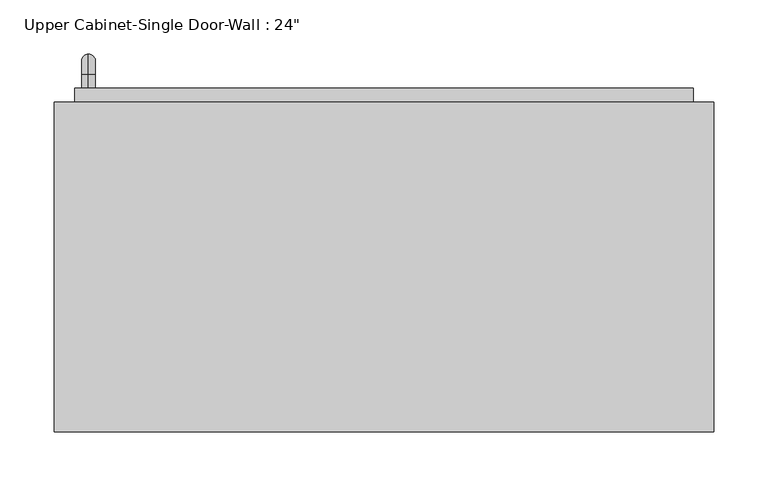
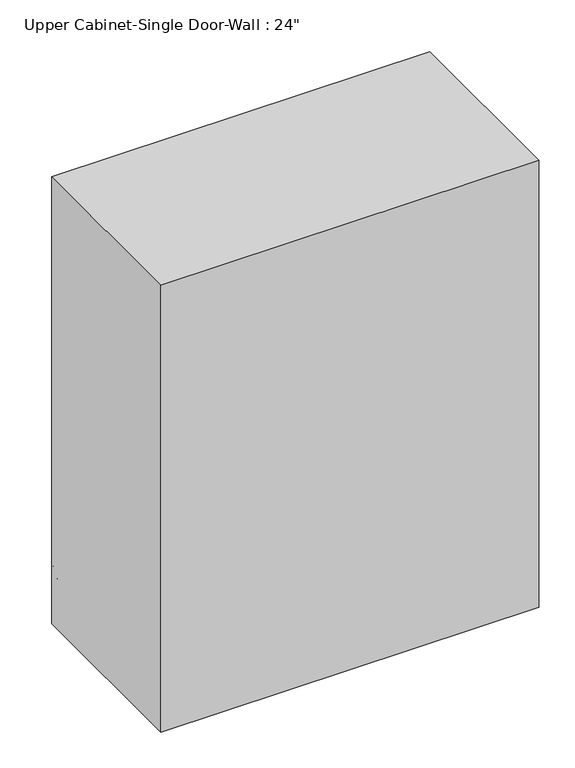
"""IFC4 building model written with IfcOpenShell, lengths in millimetres: furniture geometry."""

from ifc_helpers import new_model, si_unit, point, frame, origin, place, context, project, spatial, polyline, circle_curve, ellipse_curve, trimmed, outline, extrude, faceted_brep, source, transform, mapped, element, save
from ifc_brep_helpers import plane_surface, cylinder_surface, revolved_surface, advanced_brep


def furniture_0e718c52(model_context):
    return source(origin(), model_context, "Body", "SolidModel", [
        faceted_brep([(-275.0288372, 76.2, 2133.6), (-275.0288372, 76.2, 1371.6), (334.5711628, 76.2, 1371.6), (334.5711628, 76.2, 2133.6), (-275.0288372, 381.0, 2133.6), (334.5711628, 381.0, 2133.6), (334.5711628, 381.0, 1371.6), (-275.0288372, 381.0, 1371.6), (-255.9788372, 381.0, 2114.55), (-255.9788372, 381.0, 1390.65), (315.5211628, 381.0, 1390.65), (315.5211628, 381.0, 2114.55), (315.5211628, 95.25, 2114.55), (-255.9788372, 95.25, 2114.55), (315.5211628, 95.25, 1390.65), (-255.9788372, 95.25, 1390.65)], [[[0, 1, 2, 3]], [[4, 5, 6, 7], [8, 9, 10, 11]], [[1, 0, 4, 7]], [[2, 1, 7, 6]], [[3, 2, 6, 5]], [[0, 3, 5, 4]], [[8, 11, 12, 13]], [[11, 10, 14, 12]], [[10, 9, 15, 14]], [[9, 8, 13, 15]], [[13, 12, 14, 15]]]),
        advanced_brep(
        [(-243.2788372, 393.7, 1517.65), (-243.2788372, 393.7, 1530.35), (-243.2788372, 406.4, 1517.65), (-243.2788372, 406.4, 1530.35), (-243.2788372, 425.45, 1511.3), (-243.2788372, 412.75, 1511.3), (-243.2788372, 412.75, 1435.1), (-243.2788372, 425.45, 1435.1), (-243.2788372, 406.4, 1416.05), (-243.2788372, 406.4, 1428.75), (-243.2788372, 393.7, 1428.75), (-243.2788372, 393.7, 1416.05)],
        [
            (0, 1, circle_curve(frame((-243.2788372, 393.7, 1524.0), z_axis=(0.0, -1.0, 0.0), x_axis=(0.0, 0.0, 1.0)), 6.35)),
            (1, 0, circle_curve(frame((-243.2788372, 393.7, 1524.0), z_axis=(0.0, -1.0, 0.0), x_axis=(0.0, 0.0, 1.0)), 6.35)),
            (0, 2),
            (2, 3, circle_curve(frame((-243.2788372, 406.4, 1524.0), z_axis=(0.0, -1.0, 0.0), x_axis=(0.0, 0.0, 1.0)), 6.35)),
            (3, 1),
            (3, 2, circle_curve(frame((-243.2788372, 406.4, 1524.0), z_axis=(0.0, -1.0, 0.0), x_axis=(0.0, 0.0, 1.0)), 6.35)),
            (4, 3, circle_curve(frame((-243.2788372, 406.4, 1511.3), z_axis=(1.0, 0.0, 0.0), x_axis=(0.0, 0.0, 1.0)), 19.05)),
            (2, 5, circle_curve(frame((-243.2788372, 406.4, 1511.3), z_axis=(-1.0, 0.0, 0.0), x_axis=(0.0, 0.0, 1.0)), 6.35)),
            (5, 4, circle_curve(frame((-243.2788372, 419.1, 1511.3), z_axis=(0.0, 0.0, 1.0), x_axis=(0.0, 1.0, 0.0)), 6.35)),
            (4, 5, circle_curve(frame((-243.2788372, 419.1, 1511.3), z_axis=(0.0, 0.0, 1.0), x_axis=(0.0, 1.0, 0.0)), 6.35)),
            (5, 6),
            (6, 7, circle_curve(frame((-243.2788372, 419.1, 1435.1), z_axis=(0.0, 0.0, 1.0), x_axis=(0.0, 1.0, 0.0)), 6.35)),
            (7, 4),
            (7, 6, circle_curve(frame((-243.2788372, 419.1, 1435.1), z_axis=(0.0, 0.0, 1.0), x_axis=(0.0, 1.0, 0.0)), 6.35)),
            (8, 7, circle_curve(frame((-243.2788372, 406.4, 1435.1), z_axis=(1.0, 0.0, 0.0), x_axis=(0.0, 1.0, 0.0)), 19.05)),
            (6, 9, circle_curve(frame((-243.2788372, 406.4, 1435.1), z_axis=(-1.0, 0.0, 0.0), x_axis=(0.0, 1.0, 0.0)), 6.35)),
            (9, 8, circle_curve(frame((-243.2788372, 406.4, 1422.4), z_axis=(0.0, 1.0, 0.0), x_axis=(0.0, 0.0, -1.0)), 6.35)),
            (8, 9, circle_curve(frame((-243.2788372, 406.4, 1422.4), z_axis=(0.0, 1.0, 0.0), x_axis=(0.0, 0.0, -1.0)), 6.35)),
            (10, 11, circle_curve(frame((-243.2788372, 393.7, 1422.4), z_axis=(0.0, -1.0, 0.0), x_axis=(0.0, 0.0, -1.0)), 6.35)),
            (11, 10, circle_curve(frame((-243.2788372, 393.7, 1422.4), z_axis=(0.0, -1.0, 0.0), x_axis=(0.0, 0.0, -1.0)), 6.35)),
            (9, 10),
            (11, 8),
        ],
        [
            plane_surface(frame((-249.6288372, 393.7, 1524.0), z_axis=(0.0, -1.0, 0.0), x_axis=(0.0, 0.0, 1.0))),
            cylinder_surface(frame((-243.2788372, 393.7, 1524.0), z_axis=(0.0, -1.0, 0.0), x_axis=(0.0, 0.0, 1.0)), 6.35),
            revolved_surface(trimmed(ellipse_curve(frame((-243.2788372, 406.4, 1524.0), z_axis=(0.0, -1.0, 0.0), x_axis=(0.0, 0.0, 1.0)), 6.35, 6.35), [point((-243.2788372, 406.4, 1517.65))], [point((-243.2788372, 406.4, 1530.35))], True, "CARTESIAN"), (-243.2788372, 406.4, 1511.3), (-1.0, 0.0, 0.0)),
            revolved_surface(trimmed(ellipse_curve(frame((-243.2788372, 406.4, 1524.0), z_axis=(0.0, -1.0, 0.0), x_axis=(0.0, 0.0, 1.0)), 6.35, 6.35), [point((-243.2788372, 406.4, 1530.35))], [point((-243.2788372, 406.4, 1517.65))], True, "CARTESIAN"), (-243.2788372, 406.4, 1511.3), (-1.0, 0.0, 0.0)),
            cylinder_surface(frame((-243.2788372, 419.1, 1511.3), z_axis=(0.0, 0.0, 1.0), x_axis=(0.0, 1.0, 0.0)), 6.35),
            revolved_surface(trimmed(ellipse_curve(frame((-243.2788372, 419.1, 1435.1), z_axis=(0.0, 0.0, 1.0), x_axis=(0.0, 1.0, 0.0)), 6.35, 6.35), [point((-243.2788372, 412.75, 1435.1))], [point((-243.2788372, 425.45, 1435.1))], True, "CARTESIAN"), (-243.2788372, 406.4, 1435.1), (-1.0, 0.0, 0.0)),
            revolved_surface(trimmed(ellipse_curve(frame((-243.2788372, 419.1, 1435.1), z_axis=(0.0, 0.0, 1.0), x_axis=(0.0, 1.0, 0.0)), 6.35, 6.35), [point((-243.2788372, 425.45, 1435.1))], [point((-243.2788372, 412.75, 1435.1))], True, "CARTESIAN"), (-243.2788372, 406.4, 1435.1), (-1.0, 0.0, 0.0)),
            plane_surface(frame((-249.6288372, 393.7, 1422.4), z_axis=(0.0, -1.0, 0.0), x_axis=(0.0, 0.0, -1.0))),
            cylinder_surface(frame((-243.2788372, 406.4, 1422.4), z_axis=(0.0, 1.0, 0.0), x_axis=(0.0, 0.0, -1.0)), 6.35),
        ],
        [
            (0, [[1, 2]]),
            (1, [[-1, 3, 4, 5]]),
            (1, [[-2, -5, 6, -3]]),
            (2, [[7, -4, 8, 9]]),
            (3, [[-8, -6, -7, 10]]),
            (4, [[-9, 11, 12, 13]]),
            (4, [[-10, -13, 14, -11]]),
            (5, [[15, -12, 16, 17]]),
            (6, [[-16, -14, -15, 18]]),
            (7, [[19, 20]]),
            (8, [[-17, 21, -20, 22]]),
            (8, [[-18, -22, -19, -21]]),
        ],
    ),
        extrude(outline(polyline([(-255.9788372, 393.7), (315.5211628, 393.7), (315.5211628, 361.95), (-255.9788372, 361.95), (-255.9788372, 393.7)])), frame((0.0, 0.0, 1390.65), z_axis=(0.0, 0.0, 1.0), x_axis=(1.0, 0.0, 0.0)), (0.0, 0.0, 1.0), 723.9),
    ])


if __name__ == "__main__":
    model = new_model("IFC4")
    model_context = context("Model", 3, world=origin())
    ifc_project = project(units=[si_unit("LENGTHUNIT", "METRE", prefix="MILLI")], contexts=[model_context])
    site = spatial("IfcSite", under=ifc_project)
    building = spatial("IfcBuilding", under=site)
    placement = place(None, origin())
    furniture_shape = furniture_0e718c52(model_context)
    element("IfcFurniture", 1, ObjectType="Upper Cabinet-Single Door-Wall : 24\"", at=placement, inside=building, context=model_context, shape_type="MappedRepresentation", body=[
        mapped(furniture_shape, transform((0.0, 0.0, 0.0), x_axis=(1.0, 0.0, 0.0), y_axis=(0.0, 1.0, 0.0), z_axis=(0.0, 0.0, 1.0))),
    ])
    save(model, "model.ifc")
